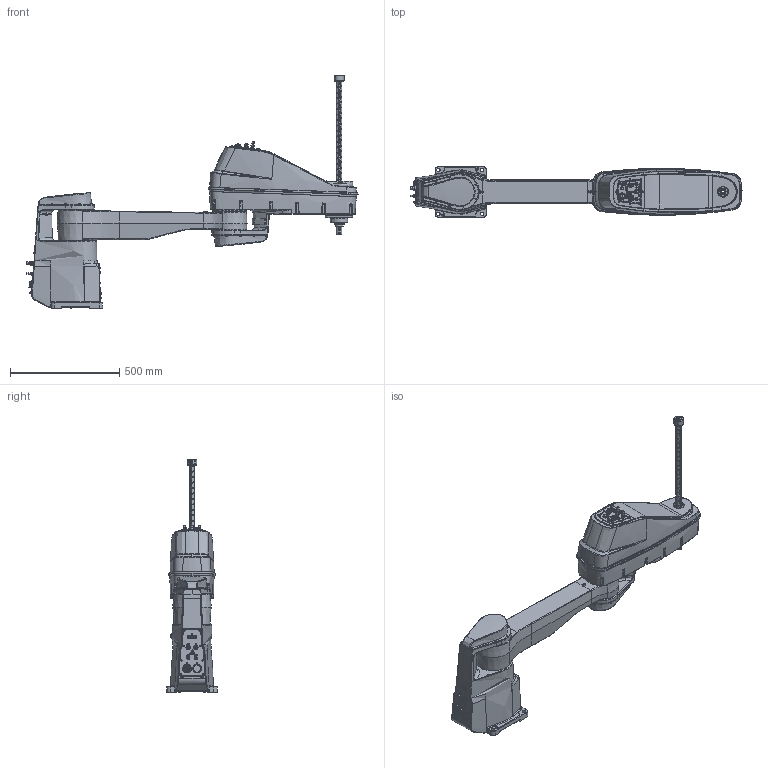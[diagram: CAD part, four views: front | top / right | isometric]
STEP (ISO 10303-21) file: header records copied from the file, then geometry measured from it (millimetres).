
FILE_DESCRIPTION(/* description */ (''),/* implementation_level */ '2;1');
FILE_NAME(/* name */ '394.088-10.132.01-00umm000~00.stp',/* time_stamp */ '2023-06-28T16:40:50+08:00',/* author */ (''),/* organization */ (''),/* preprocessor_version */ 'ST-DEVELOPER v18.102',/* originating_system */ 'SIEMENS PLM Software NX 2000',/* authorisation */ '');
FILE_SCHEMA (('AUTOMOTIVE_DESIGN { 1 0 10303 214 3 1 1 1 }'));
Products named in the file (5): 394.088-10.132.01-02umm000~00; 394.088-10.121.04-01umm000~00; 394.088-10.131.01-03umm000~00; 394.088-10.131.01-01umm000~00; 394.088-10.132.01-00umm000~00
Assembly tree (4 placements, depth 2):
  394.088-10.132.01-00umm000~00
    394.088-10.131.01-01umm000~00
    394.088-10.131.01-03umm000~00
    394.088-10.121.04-01umm000~00
    394.088-10.132.01-02umm000~00
Bounding box: 1516.14 x 230 x 1063.5 mm (x, y, z)
Volume: 39884931 mm3; surface area: 2502262.3 mm2
Topology: 33 solids, 111 shells, 8410 faces, 20766 edges, 13218 vertices
Faces by surface type: plane 3168, cylinder 2556, bspline 1158, cone 616, extrusion 612, torus 260, sphere 40
Full cylindrical faces by diameter (mm): 0.72 x24, 1.2 x52, 1.29 x24, 1.5 x26, 2.3 x26, 2.5 x3, 2.6 x2, 3 x2, 3.3 x33, 4 x80, 4.1 x3, 4.2 x4, 4.3 x12, 4.4 x44, 5 x15, 5.3 x3, 6 x9, 6.8 x6, 7 x105, 8 x14, 8.5 x5, 8.95 x3, 9 x17, 9.7 x9, 9.9 x6, 10 x3, 10.92 x3, 11 x8, 12 x6, 12.1 x1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
Entity records: 364611 total; most frequent: CARTESIAN_POINT 164352, ORIENTED_EDGE 39184, DIRECTION 32391, EDGE_CURVE 19592, VERTEX_POINT 12882, AXIS2_PLACEMENT_3D 12230, EDGE_LOOP 10100, ADVANCED_FACE 8406
